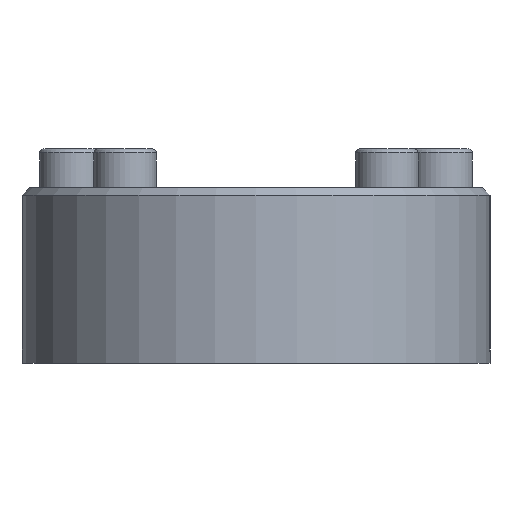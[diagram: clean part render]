
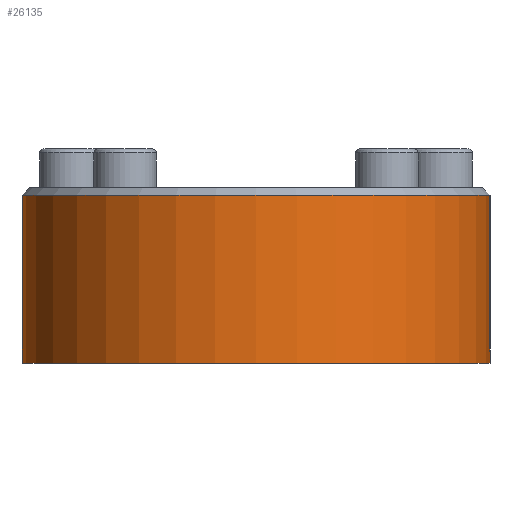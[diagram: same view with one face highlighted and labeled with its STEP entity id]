
A CAD part, front view. The second image highlights one B-rep face of the part: STEP entity #26135.
In plain terms, the highlighted cylindrical face has radius 60 mm (diameter 120 mm), a partial arc.
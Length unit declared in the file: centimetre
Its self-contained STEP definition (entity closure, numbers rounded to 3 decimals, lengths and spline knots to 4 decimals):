
#1532=CYLINDRICAL_SURFACE('',#27527,6.);
#2939=FACE_OUTER_BOUND('',#4327,.T.);
#4327=EDGE_LOOP('',(#17727,#17728,#17729,#17730));
#5861=LINE('',#33362,#8637);
#5865=LINE('',#33371,#8641);
#8637=VECTOR('',#28551,4.3);
#8641=VECTOR('',#28557,4.3);
#11413=CIRCLE('',#27528,6.);
#11414=CIRCLE('',#27529,6.);
#11467=VERTEX_POINT('',#33360);
#11468=VERTEX_POINT('',#33361);
#11471=VERTEX_POINT('',#33369);
#11472=VERTEX_POINT('',#33370);
#13975=EDGE_CURVE('',#11467,#11468,#5861,.T.);
#13979=EDGE_CURVE('',#11471,#11472,#5865,.T.);
#13980=EDGE_CURVE('',#11468,#11472,#11413,.T.);
#13981=EDGE_CURVE('',#11471,#11467,#11414,.T.);
#17727=ORIENTED_EDGE('',*,*,#13979,.T.);
#17728=ORIENTED_EDGE('',*,*,#13980,.F.);
#17729=ORIENTED_EDGE('',*,*,#13975,.F.);
#17730=ORIENTED_EDGE('',*,*,#13981,.F.);
#26135=ADVANCED_FACE('',(#2939),#1532,.T.);
#27527=AXIS2_PLACEMENT_3D('',#33368,#28555,#28556);
#27528=AXIS2_PLACEMENT_3D('',#33372,#28558,#28559);
#27529=AXIS2_PLACEMENT_3D('',#33373,#28560,#28561);
#28551=DIRECTION('',(0.,0.,1.));
#28555=DIRECTION('center_axis',(0.,0.,
-1.));
#28556=DIRECTION('ref_axis',(-1.,0.,0.));
#28557=DIRECTION('',(0.,0.,1.));
#28558=DIRECTION('center_axis',(0.,0.,
1.));
#28559=DIRECTION('ref_axis',(-1.,0.,0.));
#28560=DIRECTION('center_axis',(0.,0.,
-1.));
#28561=DIRECTION('ref_axis',(1.,0.,0.));
#33360=CARTESIAN_POINT('',(-6.,-14.5,-3.3));
#33361=CARTESIAN_POINT('',(-6.,-14.5,1.));
#33362=CARTESIAN_POINT('',(-6.,-14.5,-3.3));
#33368=CARTESIAN_POINT('Origin',(0.,-14.5,1.2));
#33369=CARTESIAN_POINT('',(6.,-14.5,-3.3));
#33370=CARTESIAN_POINT('',(6.,-14.5,1.));
#33371=CARTESIAN_POINT('',(6.,-14.5,-3.3));
#33372=CARTESIAN_POINT('Origin',(0.,-14.5,1.));
#33373=CARTESIAN_POINT('Origin',(0.,-14.5,-3.3));
